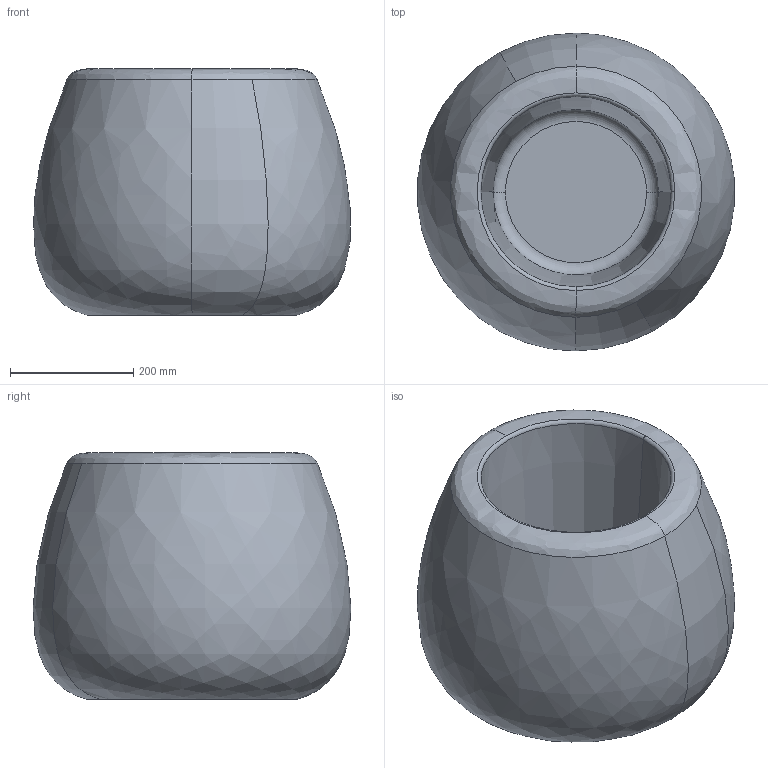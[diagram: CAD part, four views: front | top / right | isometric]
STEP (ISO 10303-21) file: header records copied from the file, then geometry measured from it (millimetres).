
FILE_DESCRIPTION(('CATIA V5 STEP Exchange','CAx-IF Rec.Pracs.--- Model Styling and Organization---1.5--- 2016-08-15','CAx-IF Rec.Pracs.---Supplemental Geometry---1.0---2011-11-01','CAx-IF Rec.Pracs.--- Composite Materials ---3.4---2017-06-13','CAx-IF Rec.Pracs.---Tessellated 3D Geometry---1.0---2015-12-17'),'2;1');
FILE_NAME('Z:\Elaborati-Grafici\ROTAZIONALE\Pagani\PLUST-2022\SGABELLO-BOOM-BASSO\Vaso-BOOM.stp','2023-10-17T09:12:58+00:00',('none'),('none'),'CATIA Version 5-6 Release 2020 SP3','CATIA V5 STEP AP242 v2','none');
FILE_SCHEMA(('AP242_MANAGED_MODEL_BASED_3D_ENGINEERING_MIM_LF {1 0 10303 442 1 1 4}'));
Length unit declared in the file: millimetre
Products named in the file (1): Part4
Bounding box: 514.17 x 515.83 x 399.93 mm (x, y, z)
Volume: 49003704.5 mm3; surface area: 1136844.6 mm2
Topology: 1 solids, 1 shells, 30 faces, 76 edges, 50 vertices
Faces by surface type: cone 10, torus 10, revolution 6, plane 4
Entity records: 990 total; most frequent: CARTESIAN_POINT 270, ORIENTED_EDGE 152, DIRECTION 113, AXIS2_PLACEMENT_3D 79, EDGE_CURVE 76, CIRCLE 59, VERTEX_POINT 50, EDGE_LOOP 32
